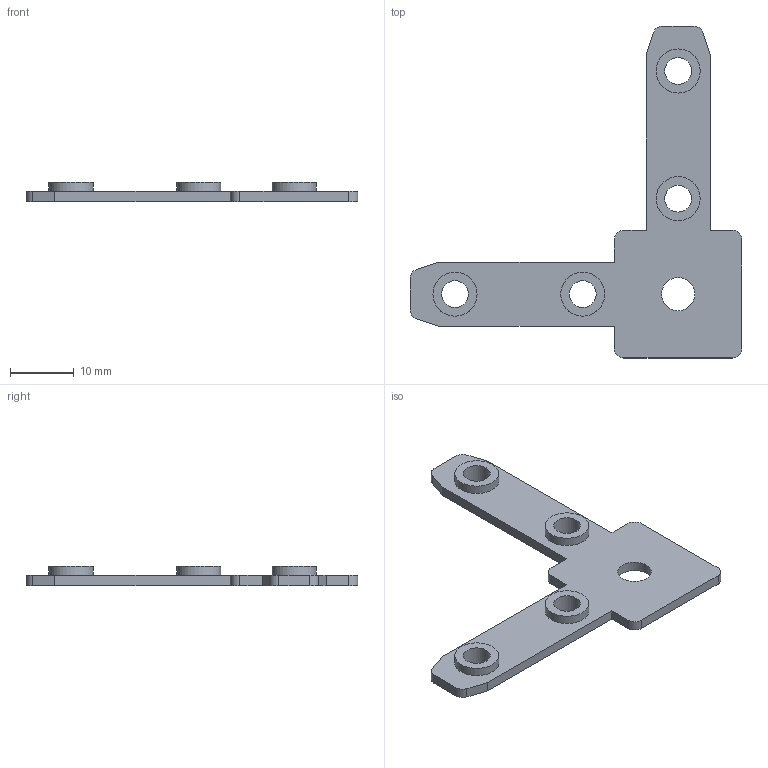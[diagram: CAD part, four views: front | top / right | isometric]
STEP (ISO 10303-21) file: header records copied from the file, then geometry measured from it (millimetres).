
FILE_DESCRIPTION(/* description */ (''),/* implementation_level */ '2;1');
FILE_NAME(/* name */ '90 Degree Angle Inner Link Connector.step',/* time_stamp */ '2024-08-03T01:28:26+03:00',/* author */ (''),/* organization */ (''),/* preprocessor_version */ 'ST-DEVELOPER v20',/* originating_system */ 'Autodesk Translation Framework v13.14.0.145',/* authorisation */ '');
FILE_SCHEMA (('AUTOMOTIVE_DESIGN { 1 0 10303 214 3 1 1 }'));
Length unit declared in the file: millimetre
Products named in the file (1): 90 Degree Angle Inner Link Connector
Bounding box: 52 x 52 x 3 mm (x, y, z)
Volume: 1647.1 mm3; surface area: 2518.8 mm2
Topology: 1 solids, 1 shells, 39 faces, 99 edges, 66 vertices
Faces by surface type: plane 22, cylinder 17
Full cylindrical faces by diameter (mm): 4.2 x4, 5.2 x1, 6.9 x4
Entity records: 1240 total; most frequent: DIRECTION 213, CARTESIAN_POINT 205, ORIENTED_EDGE 198, EDGE_CURVE 99, AXIS2_PLACEMENT_3D 74, VERTEX_POINT 66, LINE 65, VECTOR 65
